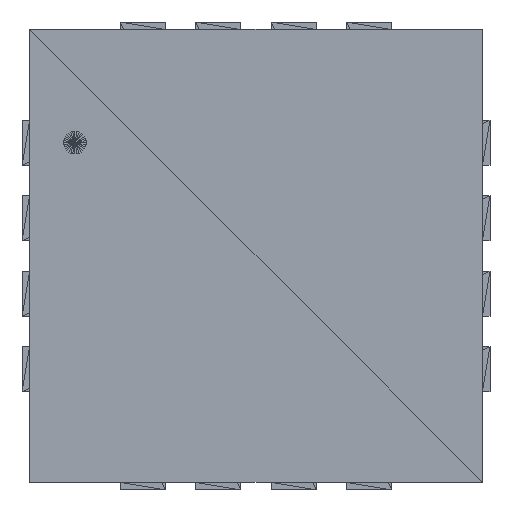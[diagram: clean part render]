
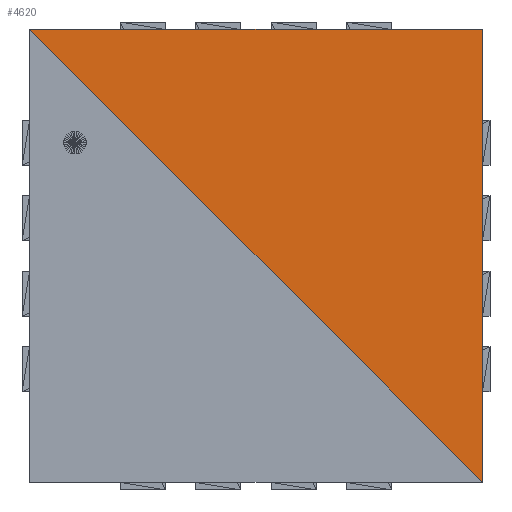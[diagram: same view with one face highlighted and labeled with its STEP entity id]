
A CAD part, top view. The second image highlights one B-rep face of the part: STEP entity #4620.
In plain terms, the highlighted planar face has unit normal (0, 0, 1).
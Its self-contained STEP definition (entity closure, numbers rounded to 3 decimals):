
#4620=ADVANCED_FACE('',(#4621),#4647,.F.);
#4621=FACE_OUTER_BOUND('',#4622,.T.);
#4622=EDGE_LOOP('',(#4623,#4625,#4627));
#4623=ORIENTED_EDGE('',*,*,#4624,.T.);
#4624=EDGE_CURVE('',#4629,#4631,#4633,.T.);
#4625=ORIENTED_EDGE('',*,*,#4626,.T.);
#4626=EDGE_CURVE('',#4631,#4637,#4639,.T.);
#4627=ORIENTED_EDGE('',*,*,#4628,.T.);
#4628=EDGE_CURVE('',#4637,#4629,#4643,.T.);
#4629=VERTEX_POINT('',#4630);
#4630=CARTESIAN_POINT('',(1.5,-1.5,0.746));
#4631=VERTEX_POINT('',#4632);
#4632=CARTESIAN_POINT('',(-1.5,1.5,0.746));
#4633=LINE('',#4634,#4635);
#4634=CARTESIAN_POINT('',(1.5,-1.5,0.746));
#4635=VECTOR('',#4636,1.0);
#4636=DIRECTION('',(0.707,-0.707,0.0));
#4637=VERTEX_POINT('',#4638);
#4638=CARTESIAN_POINT('',(1.5,1.5,0.746));
#4639=LINE('',#4640,#4641);
#4640=CARTESIAN_POINT('',(-1.5,1.5,0.746));
#4641=VECTOR('',#4642,1.0);
#4642=DIRECTION('',(-1.0,0.0,0.0));
#4643=LINE('',#4644,#4645);
#4644=CARTESIAN_POINT('',(1.5,1.5,0.746));
#4645=VECTOR('',#4646,1.0);
#4646=DIRECTION('',(0.0,1.0,0.0));
#4647=PLANE('',#4648);
#4648=AXIS2_PLACEMENT_3D('',#4649,#4650,#4651);
#4649=CARTESIAN_POINT('',(-1.5,1.5,0.746));
#4650=DIRECTION('',(0.0,0.0,-1.0));
#4651=DIRECTION('',(0.0,-1.0,0.0));
